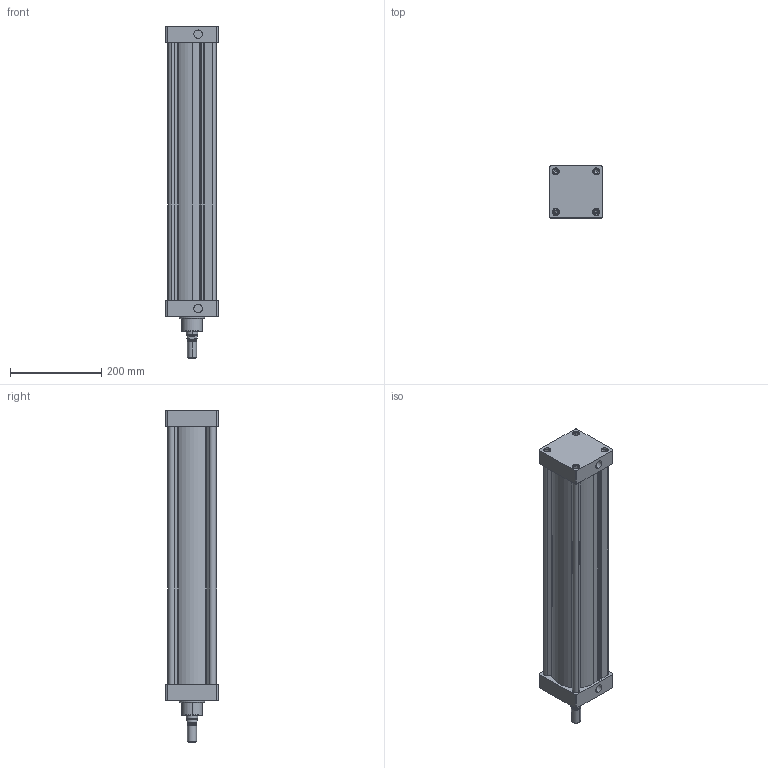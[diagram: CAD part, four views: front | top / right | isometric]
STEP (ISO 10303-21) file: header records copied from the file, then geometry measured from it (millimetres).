
FILE_DESCRIPTION (( 'STEP AP214' ), '1' );
FILE_NAME ('WSI-100-0500 (MDMY).STEP', '2016-07-19T15:32:32', ( 'Hidtek' ), ( '' ), 'SwSTEP 2.0', 'SolidWorks 2016', '' );
FILE_SCHEMA (( 'AUTOMOTIVE_DESIGN' ));
Length unit declared in the file: millimetre
Products named in the file (3): Group2^WSI-100-0500 (MDMY); Group1^WSI-100-0500 (MDMY); WSI-100-0500 (MDMY)
Assembly tree (2 placements, depth 2):
  WSI-100-0500 (MDMY)
    Group1^WSI-100-0500 (MDMY)
    Group2^WSI-100-0500 (MDMY)
Bounding box: 115 x 115 x 728.5 mm (x, y, z)
Volume: 3028462 mm3; surface area: 664866.3 mm2
Topology: 12 solids, 12 shells, 401 faces, 964 edges, 612 vertices
Faces by surface type: plane 222, cylinder 113, cone 58, torus 8
Entity records: 12597 total; most frequent: CARTESIAN_POINT 2352, DIRECTION 1982, ORIENTED_EDGE 1896, EDGE_CURVE 948, AXIS2_PLACEMENT_3D 700, VERTEX_POINT 612, VECTOR 582, LINE 582
